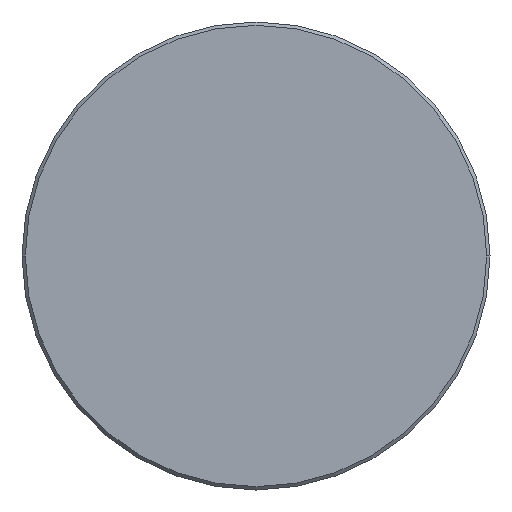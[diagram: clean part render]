
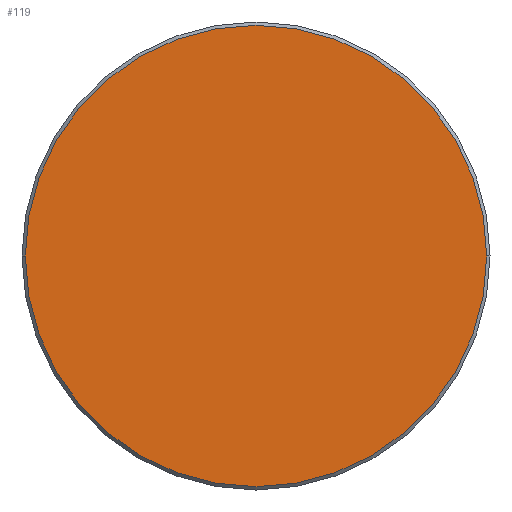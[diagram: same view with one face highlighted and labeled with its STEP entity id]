
A CAD part, left-side view. The second image highlights one B-rep face of the part: STEP entity #119.
In plain terms, the highlighted planar face has unit normal (-1, 0, 0).
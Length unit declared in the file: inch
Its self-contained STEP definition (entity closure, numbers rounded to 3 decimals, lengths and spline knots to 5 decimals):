
#2 = AXIS2_PLACEMENT_3D ( 'NONE', #115, #315, #200 ) ;
#39 = DIRECTION ( 'NONE',  ( 0., -1., 0. ) ) ;
#51 = CIRCLE ( 'NONE', #2, 0.27725 ) ;
#55 = AXIS2_PLACEMENT_3D ( 'NONE', #360, #215, #39 ) ;
#63 = VERTEX_POINT ( 'NONE', #332 ) ;
#94 = EDGE_CURVE ( 'NONE', #63, #239, #346, .T. ) ;
#108 = EDGE_LOOP ( 'NONE', ( #234, #275 ) ) ;
#109 = DIRECTION ( 'NONE',  ( 0., -1., 0. ) ) ;
#115 = CARTESIAN_POINT ( 'NONE',  ( 0., 0., 0. ) ) ;
#119 = ADVANCED_FACE ( 'NONE', ( #199 ), #246, .T. ) ;
#136 = DIRECTION ( 'NONE',  ( -1., 0., 0. ) ) ;
#165 = EDGE_CURVE ( 'NONE', #239, #63, #51, .T. ) ;
#199 = FACE_OUTER_BOUND ( 'NONE', #108, .T. ) ;
#200 = DIRECTION ( 'NONE',  ( 0., -1., 0. ) ) ;
#215 = DIRECTION ( 'NONE',  ( -1., 0., 0. ) ) ;
#234 = ORIENTED_EDGE ( 'NONE', *, *, #94, .T. ) ;
#239 = VERTEX_POINT ( 'NONE', #378 ) ;
#246 = PLANE ( 'NONE',  #338 ) ;
#275 = ORIENTED_EDGE ( 'NONE', *, *, #165, .T. ) ;
#310 = CARTESIAN_POINT ( 'NONE',  ( 0., 0., 0. ) ) ;
#315 = DIRECTION ( 'NONE',  ( -1., 0., 0. ) ) ;
#332 = CARTESIAN_POINT ( 'NONE',  ( 0., 0.27725, 0. ) ) ;
#338 = AXIS2_PLACEMENT_3D ( 'NONE', #310, #136, #109 ) ;
#346 = CIRCLE ( 'NONE', #55, 0.27725 ) ;
#360 = CARTESIAN_POINT ( 'NONE',  ( 0., 0., 0. ) ) ;
#378 = CARTESIAN_POINT ( 'NONE',  ( 0., -0.27725, 0. ) ) ;
